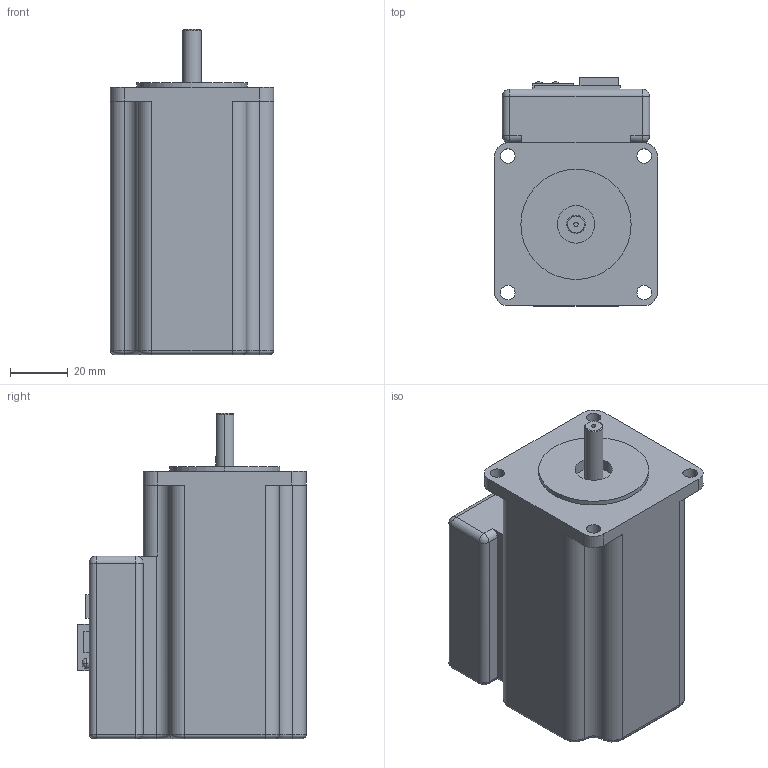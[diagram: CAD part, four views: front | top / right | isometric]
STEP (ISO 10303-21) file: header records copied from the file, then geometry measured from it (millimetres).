
FILE_DESCRIPTION((''),'2;1');
FILE_NAME('CU_ISM-7411','2014-07-24T',('jbuhisan'),(''),'PRO/ENGINEER BY PARAMETRIC TECHNOLOGY CORPORATION, 2014000','PRO/ENGINEER BY PARAMETRIC TECHNOLOGY CORPORATION, 2014000','');
FILE_SCHEMA(('CONFIG_CONTROL_DESIGN'));
Length unit declared in the file: centimetre
Products named in the file (1): CU_ISM-7411
Bounding box: 56.4 x 79 x 112.4 mm (x, y, z)
Volume: 321934.9 mm3; surface area: 33249.2 mm2
Topology: 1 solids, 1 shells, 156 faces, 418 edges, 272 vertices
Faces by surface type: plane 78, cylinder 55, torus 10, bspline 8, sphere 4, cone 1
Entity records: 5104 total; most frequent: CARTESIAN_POINT 1055, DIRECTION 865, ORIENTED_EDGE 828, EDGE_CURVE 414, AXIS2_PLACEMENT_3D 311, VERTEX_POINT 272, VECTOR 243, LINE 243
